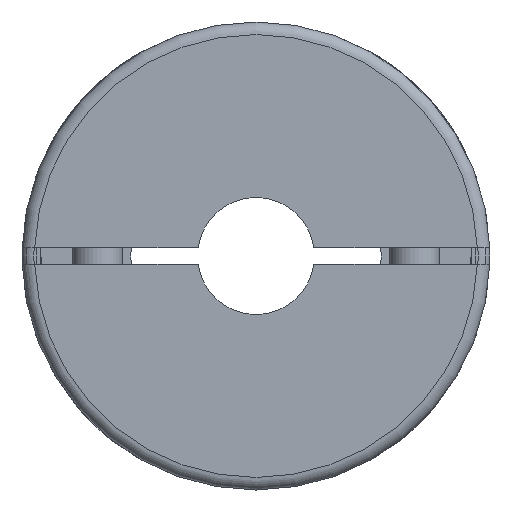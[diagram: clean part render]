
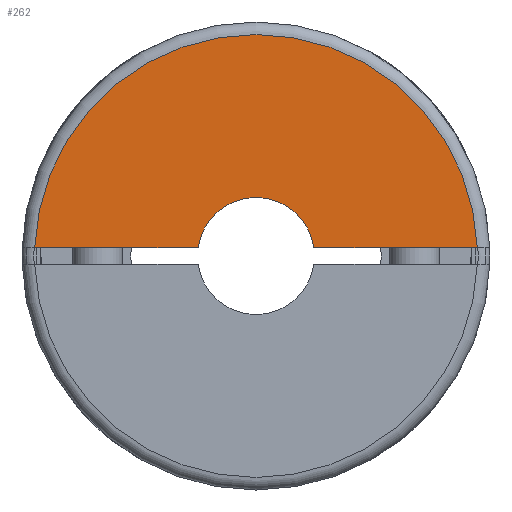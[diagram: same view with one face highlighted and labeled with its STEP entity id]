
A CAD part, left-side view. The second image highlights one B-rep face of the part: STEP entity #262.
In plain terms, the highlighted planar face has unit normal (-1, 0, 0).
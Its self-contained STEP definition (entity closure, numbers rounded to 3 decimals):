
#262 = ADVANCED_FACE( '', ( #744 ), #745, .T. );
#744 = FACE_OUTER_BOUND( '', #1591, .T. );
#745 = PLANE( '', #1592 );
#1591 = EDGE_LOOP( '', ( #2446, #2447, #2448, #2449 ) );
#1592 = AXIS2_PLACEMENT_3D( '', #2450, #2451, #2452 );
#2446 = ORIENTED_EDGE( '', *, *, #4055, .F. );
#2447 = ORIENTED_EDGE( '', *, *, #4056, .T. );
#2448 = ORIENTED_EDGE( '', *, *, #4057, .F. );
#2449 = ORIENTED_EDGE( '', *, *, #4058, .T. );
#2450 = CARTESIAN_POINT( '', ( 0., 0., 4.5 ) );
#2451 = DIRECTION( '', ( -1., 0., 0. ) );
#2452 = DIRECTION( '', ( 0., 0., 1. ) );
#4055 = EDGE_CURVE( '', #4654, #4655, #4656, .T. );
#4056 = EDGE_CURVE( '', #4654, #4657, #4658, .T. );
#4057 = EDGE_CURVE( '', #4659, #4657, #4660, .T. );
#4058 = EDGE_CURVE( '', #4659, #4655, #4661, .T. );
#4654 = VERTEX_POINT( '', #5572 );
#4655 = VERTEX_POINT( '', #5573 );
#4656 = LINE( '', #5574, #5575 );
#4657 = VERTEX_POINT( '', #5576 );
#4658 = CIRCLE( '', #5577, 7. );
#4659 = VERTEX_POINT( '', #5578 );
#4660 = LINE( '', #5579, #5580 );
#4661 = CIRCLE( '', #5581, 26.5 );
#5572 = CARTESIAN_POINT( '', ( 0., 6.928, 1. ) );
#5573 = CARTESIAN_POINT( '', ( 0., 26.481, 1. ) );
#5574 = CARTESIAN_POINT( '', ( 0., 0., 1. ) );
#5575 = VECTOR( '', #7236, 1000. );
#5576 = CARTESIAN_POINT( '', ( 0., -6.928, 1. ) );
#5577 = AXIS2_PLACEMENT_3D( '', #7237, #7238, #7239 );
#5578 = CARTESIAN_POINT( '', ( 0., -26.481, 1. ) );
#5579 = CARTESIAN_POINT( '', ( 0., 0., 1. ) );
#5580 = VECTOR( '', #7240, 1000. );
#5581 = AXIS2_PLACEMENT_3D( '', #7241, #7242, #7243 );
#7236 = DIRECTION( '', ( 0., 1., 0. ) );
#7237 = CARTESIAN_POINT( '', ( 0., 0., 0. ) );
#7238 = DIRECTION( '', ( 1., 0., 0. ) );
#7239 = DIRECTION( '', ( 0., -1., 0. ) );
#7240 = DIRECTION( '', ( 0., 1., 0. ) );
#7241 = CARTESIAN_POINT( '', ( 0., 0., 0. ) );
#7242 = DIRECTION( '', ( -1., 0., 0. ) );
#7243 = DIRECTION( '', ( 0., 0., 1. ) );
